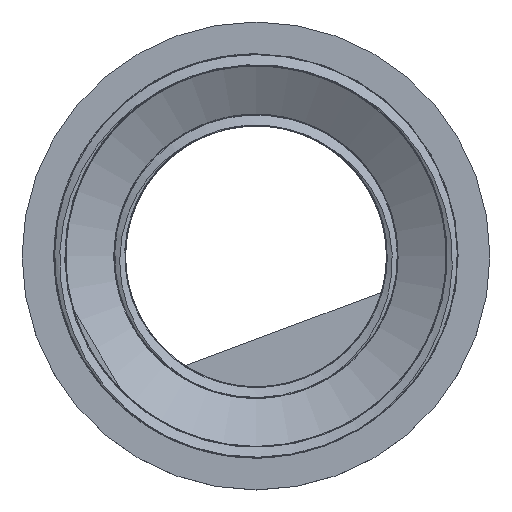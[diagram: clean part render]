
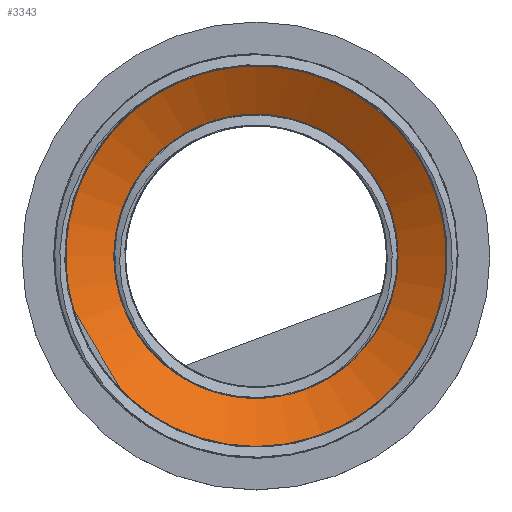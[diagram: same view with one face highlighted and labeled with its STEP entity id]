
A CAD part, top view. The second image highlights one B-rep face of the part: STEP entity #3343.
In plain terms, the highlighted conical face has half-angle 60 degrees and reference radius 25.375 mm.
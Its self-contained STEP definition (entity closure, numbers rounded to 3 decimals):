
#19=CONICAL_SURFACE('',#3655,25.375,1.047);
#417=LINE('',#6494,#629);
#629=VECTOR('',#4388,25.375);
#891=FACE_OUTER_BOUND('',#1093,.T.);
#1093=EDGE_LOOP('',(#2893,#2894,#2895,#2896,#2897,#2898));
#1272=CIRCLE('',#3653,29.8);
#1273=CIRCLE('',#3654,29.8);
#1274=CIRCLE('',#3656,20.95);
#1275=CIRCLE('',#3657,20.95);
#1551=VERTEX_POINT('',#6487);
#1552=VERTEX_POINT('',#6489);
#1553=VERTEX_POINT('',#6493);
#1554=VERTEX_POINT('',#6495);
#2019=EDGE_CURVE('',#1552,#1551,#1272,.T.);
#2020=EDGE_CURVE('',#1551,#1552,#1273,.T.);
#2021=EDGE_CURVE('',#1551,#1553,#417,.T.);
#2022=EDGE_CURVE('',#1554,#1553,#1274,.T.);
#2023=EDGE_CURVE('',#1553,#1554,#1275,.T.);
#2893=ORIENTED_EDGE('',*,*,#2019,.T.);
#2894=ORIENTED_EDGE('',*,*,#2021,.T.);
#2895=ORIENTED_EDGE('',*,*,#2022,.F.);
#2896=ORIENTED_EDGE('',*,*,#2023,.F.);
#2897=ORIENTED_EDGE('',*,*,#2021,.F.);
#2898=ORIENTED_EDGE('',*,*,#2020,.T.);
#3343=ADVANCED_FACE('',(#891),#19,.F.);
#3653=AXIS2_PLACEMENT_3D('',#6490,#4382,#4383);
#3654=AXIS2_PLACEMENT_3D('',#6491,#4384,#4385);
#3655=AXIS2_PLACEMENT_3D('',#6492,#4386,#4387);
#3656=AXIS2_PLACEMENT_3D('',#6496,#4389,#4390);
#3657=AXIS2_PLACEMENT_3D('',#6497,#4391,#4392);
#4382=DIRECTION('center_axis',(0.,0.,1.));
#4383=DIRECTION('ref_axis',(1.,0.,0.));
#4384=DIRECTION('center_axis',(0.,0.,1.));
#4385=DIRECTION('ref_axis',(1.,0.,0.));
#4386=DIRECTION('center_axis',(0.,0.,1.));
#4387=DIRECTION('ref_axis',(0.,-1.,0.));
#4388=DIRECTION('',(0.,-0.866,-0.5));
#4389=DIRECTION('center_axis',(0.,0.,1.));
#4390=DIRECTION('ref_axis',(1.,0.,0.));
#4391=DIRECTION('center_axis',(0.,0.,1.));
#4392=DIRECTION('ref_axis',(1.,0.,0.));
#6487=CARTESIAN_POINT('',(0.,29.8,20.028));
#6489=CARTESIAN_POINT('',(0.,-29.8,20.028));
#6490=CARTESIAN_POINT('Origin',(0.,0.,20.028));
#6491=CARTESIAN_POINT('Origin',(0.,0.,20.028));
#6492=CARTESIAN_POINT('Origin',(0.,0.,17.473));
#6493=CARTESIAN_POINT('',(0.,20.95,14.918));
#6494=CARTESIAN_POINT('',(0.,25.375,17.473));
#6495=CARTESIAN_POINT('',(0.,-20.95,14.918));
#6496=CARTESIAN_POINT('Origin',(0.,0.,14.918));
#6497=CARTESIAN_POINT('Origin',(0.,0.,14.918));
